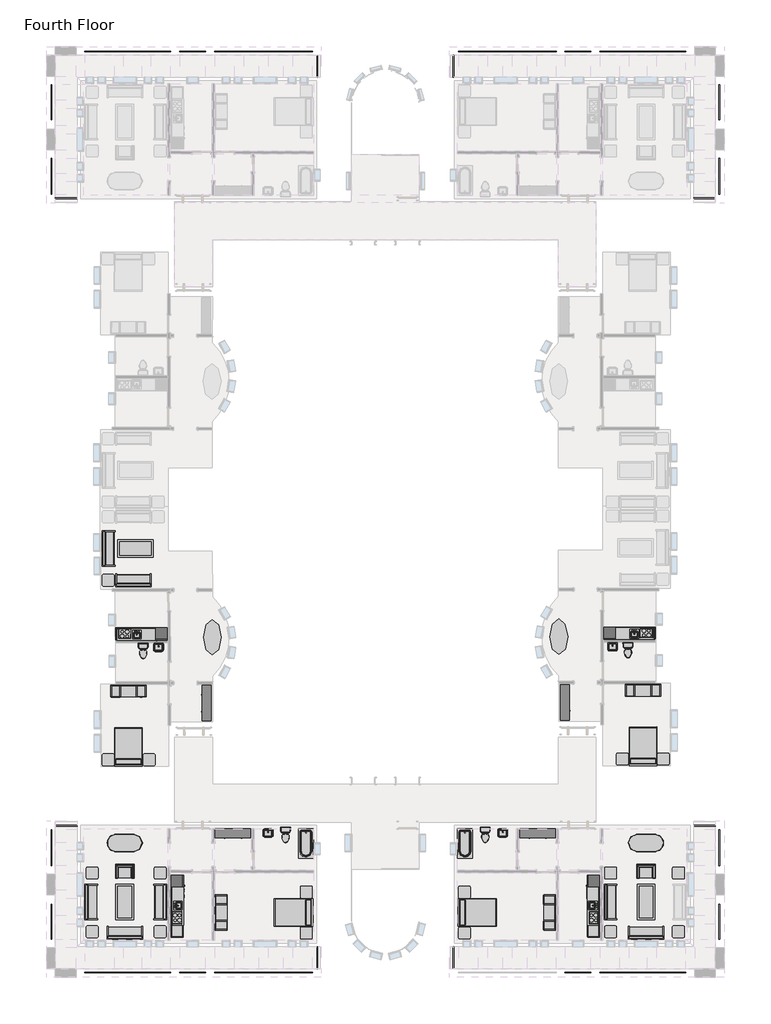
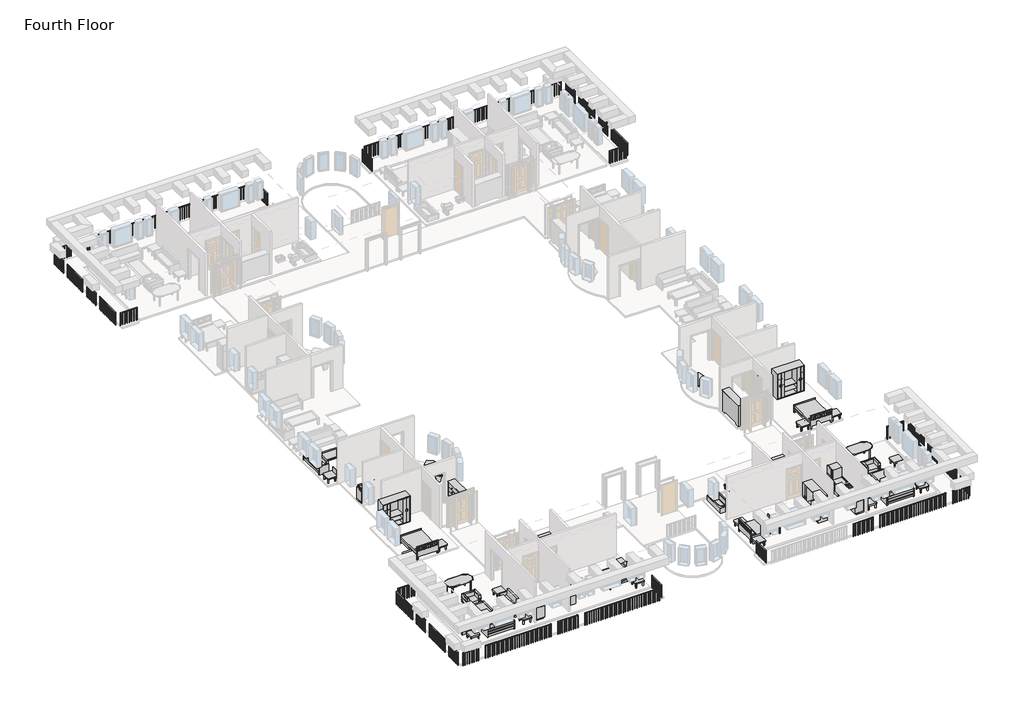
# One storey, part 5 of 6: 45 furniture elements, 39 railings, 10 flow terminals, 4 proxies.
"""IFC4 building model written with IfcOpenShell, lengths in millimetres."""

from ifc_helpers import new_model, si_unit, origin, place, context, project, spatial, transform, mapped, element, save
from components import kitchenette_medium_5_9f73a4de, kitchenette_medium_5_952fb32b, proxy_64a468c4, proxy_b7eaed23, flow_terminal_0aeb31e3, flow_terminal_b53e1081, toilet_domestic_3d_toilet_domestic_3d_f7549cf7, toilet_domestic_3d_toilet_domestic_3d_183bbd19, toilet_domestic_3d_toilet_domestic_3d_a08e12bc, toilet_domestic_3d_toilet_domestic_3d_5530cc89, tub_rectangular_3d_tub_rectangular_3d_5e45a89b, tub_rectangular_3d_tub_rectangular_3d_98eb9c7c, furniture_096e7f55, furniture_097b173b, chair_corbu_chair_corbu_2764bdef, chair_corbu_chair_corbu_95fad79a, furniture_7c473f12, furniture_f6e81328, furniture_ddc78764, furniture_328d9d47, furniture_4ef38d96, furniture_dde8a40a, furniture_cd93a443, furniture_c9413244, furniture_2c34a4f9, furniture_cc351095, furniture_43880056, furniture_a7425590, furniture_3a588284, furniture_1befe2a2, handrail_rectangular_d7a95ee9, handrail_rectangular_ca5e6d7e, handrail_rectangular_3865f20d, handrail_rectangular_1a7f8f58, handrail_rectangular_74a4d960, handrail_rectangular_5d3df7b5, handrail_rectangular_50dfef9f, handrail_rectangular_9811aab8, handrail_rectangular_aef8fcb5, handrail_rectangular_f78fcc5e, handrail_rectangular_53c340ba, handrail_rectangular_aff0f40c, handrail_rectangular_17584c85, handrail_rectangular_a0145d3a, handrail_rectangular_d45e78c5, handrail_rectangular_bbfcefb0, handrail_rectangular_81e9a33c, handrail_rectangular_a6a73193, handrail_rectangular_7020c1bb, handrail_rectangular_c69f9d7d, handrail_rectangular_71b7e832, handrail_rectangular_8f895436, handrail_rectangular_2615ea70, handrail_rectangular_b4f5aae1, handrail_rectangular_3a6b5298, handrail_rectangular_4bc45e69, handrail_rectangular_9493bfe2, handrail_rectangular_fe4f68d6, handrail_rectangular_f2b9568b, handrail_rectangular_ea3f4b23, handrail_rectangular_c97c75ae, handrail_rectangular_5462797e, handrail_rectangular_26da0932, handrail_rectangular_64a38bec, handrail_rectangular_8ddc5b96, handrail_rectangular_d55c21d1, handrail_rectangular_f025ebe9, handrail_rectangular_ecbd96a2, handrail_rectangular_f7f0d73b

model = new_model("IFC4")

# Units and contexts
model_context = context("Model", 3, world=origin())
ifc_project = project(units=[si_unit("LENGTHUNIT", "METRE", prefix="MILLI")], contexts=[model_context])

# Site, building, storey
site = spatial("IfcSite", under=ifc_project)
building = spatial("IfcBuilding", under=site)
storey = spatial("IfcBuildingStorey", under=building, Name="Fourth Floor", Elevation=9144.0)

# Proxies
placement = place(None, origin())
kitchenette_medium_5_shape = kitchenette_medium_5_9f73a4de(model_context)
element("IfcBuildingElementProxy", 1, Name="Kitchenette - Medium : 5'", ObjectType="Kitchenette - Medium : 5'", at=placement, inside=storey, context=model_context, shape_type="MappedRepresentation", body=[
    mapped(kitchenette_medium_5_shape, transform((-28107.606888, -17781.5711796, 9144.0), x_axis=(0.9999974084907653, 0.002276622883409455, 0.0), y_axis=(-0.002276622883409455, 0.9999974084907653, 0.0), z_axis=(0.0, 0.0, 1.0))),
])
kitchenette_medium_5_2_shape = kitchenette_medium_5_952fb32b(model_context)
element("IfcBuildingElementProxy", 2, Name="Kitchenette - Medium : 5'", ObjectType="Kitchenette - Medium : 5'", at=placement, inside=storey, context=model_context, shape_type="MappedRepresentation", body=[
    mapped(kitchenette_medium_5_2_shape, transform((-1744.2179937, -17741.558118, 9144.0), x_axis=(-0.999999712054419, -0.0007588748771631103, 0.0), y_axis=(0.0007588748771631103, -0.999999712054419, 0.0), z_axis=(0.0, 0.0, 1.0))),
])
proxy_shape = proxy_64a468c4(model_context)
element("IfcBuildingElementProxy", 3, Name="Kitchenette - Medium : 8'6\"", ObjectType="Kitchenette - Medium : 8'6\"", at=placement, inside=storey, context=model_context, shape_type="MappedRepresentation", body=[
    mapped(proxy_shape, transform((-25982.5839563, -32446.1322699, 9144.0), x_axis=(0.0, 1.0, 0.0), y_axis=(-1.0, 0.0, 0.0), z_axis=(0.0, 0.0, 1.0))),
])
proxy_2_shape = proxy_b7eaed23(model_context)
element("IfcBuildingElementProxy", 4, Name="Kitchenette - Medium : 8'6\"", ObjectType="Kitchenette - Medium : 8'6\"", at=placement, inside=storey, context=model_context, shape_type="MappedRepresentation", body=[
    mapped(proxy_2_shape, transform((-3887.7589563, -32446.1322699, 9144.0), x_axis=(0.0, 1.0, 0.0), y_axis=(-1.0, 0.0, 0.0), z_axis=(0.0, 0.0, 1.0))),
])

# Flow terminals
flow_terminal_shape = flow_terminal_0aeb31e3(model_context)
element("IfcFlowTerminal", 5, ObjectType="Sink Vanity-Square : 24\" x 19\"", at=placement, inside=storey, context=model_context, shape_type="MappedRepresentation", body=[
    mapped(flow_terminal_shape, transform((-21005.5856969, -28314.9262144, 9144.0), x_axis=(1.0, 0.0, 0.0), y_axis=(0.0, 1.0, 0.0), z_axis=(0.0, 0.0, 1.0))),
])
element("IfcFlowTerminal", 6, ObjectType="Sink Vanity-Square : 24\" x 19\"", at=placement, inside=storey, context=model_context, shape_type="MappedRepresentation", body=[
    mapped(flow_terminal_shape, transform((-26654.3976584, -18738.7087237, 9144.0), x_axis=(0.9999974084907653, 0.0022766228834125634, 0.0), y_axis=(-0.0022766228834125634, 0.9999974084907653, 0.0), z_axis=(0.0, 0.0, 1.0))),
])
flow_terminal_2_shape = flow_terminal_b53e1081(model_context)
element("IfcFlowTerminal", 7, ObjectType="Sink Vanity-Square : 24\" x 19\"", at=placement, inside=storey, context=model_context, shape_type="MappedRepresentation", body=[
    mapped(flow_terminal_2_shape, transform((-8864.7572157, -28314.9262144, 9144.0), x_axis=(-1.0, 0.0, 0.0), y_axis=(0.0, -1.0, 0.0), z_axis=(0.0, 0.0, 1.0))),
])
element("IfcFlowTerminal", 8, ObjectType="Sink Vanity-Square : 24\" x 19\"", at=placement, inside=storey, context=model_context, shape_type="MappedRepresentation", body=[
    mapped(flow_terminal_2_shape, transform((-3194.5151418, -18703.102462, 9144.0), x_axis=(-0.999999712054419, -0.0007588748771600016, 0.0), y_axis=(0.0007588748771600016, -0.999999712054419, 0.0), z_axis=(0.0, 0.0, 1.0))),
])
toilet_domestic_3d_toilet_domestic_3d_shape = toilet_domestic_3d_toilet_domestic_3d_f7549cf7(model_context)
toilet_domestic_3d_toilet_domestic_3d_2_shape = toilet_domestic_3d_toilet_domestic_3d_183bbd19(model_context)
element("IfcFlowTerminal", 9, ObjectType="Toilet-Domestic-3D : Toilet-Domestic-3D", at=placement, inside=storey, context=model_context, shape_type="MappedRepresentation", body=[
    mapped(toilet_domestic_3d_toilet_domestic_3d_shape, transform((-20088.1962539, -28549.2030376, 9144.0), x_axis=(1.0000000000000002, 0.0, 0.0), y_axis=(0.0, 1.0000000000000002, 0.0), z_axis=(0.0, 0.0, 1.0))),
    mapped(toilet_domestic_3d_toilet_domestic_3d_2_shape, transform((-20088.1962539, -28549.2030376, 9144.0), x_axis=(1.0000000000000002, 0.0, 0.0), y_axis=(0.0, 1.0000000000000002, 0.0), z_axis=(0.0, 0.0, 1.0))),
])
element("IfcFlowTerminal", 10, ObjectType="Toilet-Domestic-3D : Toilet-Domestic-3D", at=placement, inside=storey, context=model_context, shape_type="MappedRepresentation", body=[
    mapped(toilet_domestic_3d_toilet_domestic_3d_shape, transform((-27433.2527987, -19065.9985435, 9144.0), x_axis=(0.9999974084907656, 0.00227662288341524, 0.0), y_axis=(-0.00227662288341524, 0.9999974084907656, 0.0), z_axis=(0.0, 0.0, 1.0))),
    mapped(toilet_domestic_3d_toilet_domestic_3d_2_shape, transform((-27433.2527987, -19065.9985435, 9144.0), x_axis=(0.9999974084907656, 0.00227662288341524, 0.0), y_axis=(-0.00227662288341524, 0.9999974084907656, 0.0), z_axis=(0.0, 0.0, 1.0))),
])
toilet_domestic_3d_toilet_domestic_3d_3_shape = toilet_domestic_3d_toilet_domestic_3d_a08e12bc(model_context)
toilet_domestic_3d_toilet_domestic_3d_4_shape = toilet_domestic_3d_toilet_domestic_3d_5530cc89(model_context)
element("IfcFlowTerminal", 11, ObjectType="Toilet-Domestic-3D : Toilet-Domestic-3D", at=placement, inside=storey, context=model_context, shape_type="MappedRepresentation", body=[
    mapped(toilet_domestic_3d_toilet_domestic_3d_3_shape, transform((-9782.1466587, -28549.2030376, 9144.0), x_axis=(-1.0000000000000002, 0.0, 0.0), y_axis=(0.0, -1.0000000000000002, 0.0), z_axis=(0.0, 0.0, 1.0))),
    mapped(toilet_domestic_3d_toilet_domestic_3d_4_shape, transform((-9782.1466587, -28549.2030376, 9144.0), x_axis=(-1.0000000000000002, 0.0, 0.0), y_axis=(0.0, -1.0000000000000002, 0.0), z_axis=(0.0, 0.0, 1.0))),
])
element("IfcFlowTerminal", 12, ObjectType="Toilet-Domestic-3D : Toilet-Domestic-3D", at=placement, inside=storey, context=model_context, shape_type="MappedRepresentation", body=[
    mapped(toilet_domestic_3d_toilet_domestic_3d_3_shape, transform((-2414.6701032, -19028.026563, 9144.0), x_axis=(-0.9999997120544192, -0.0007588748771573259, 0.0), y_axis=(0.0007588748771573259, -0.9999997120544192, 0.0), z_axis=(0.0, 0.0, 1.0))),
    mapped(toilet_domestic_3d_toilet_domestic_3d_4_shape, transform((-2414.6701032, -19028.026563, 9144.0), x_axis=(-0.9999997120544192, -0.0007588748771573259, 0.0), y_axis=(0.0007588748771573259, -0.9999997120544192, 0.0), z_axis=(0.0, 0.0, 1.0))),
])
tub_rectangular_3d_tub_rectangular_3d_shape = tub_rectangular_3d_tub_rectangular_3d_5e45a89b(model_context)
element("IfcFlowTerminal", 13, ObjectType="Tub-Rectangular-3D : Tub-Rectangular-3D", at=placement, inside=storey, context=model_context, shape_type="MappedRepresentation", body=[
    mapped(tub_rectangular_3d_tub_rectangular_3d_shape, transform((-18476.8839563, -29245.383782, 9144.0), x_axis=(0.0, -1.0, 0.0), y_axis=(1.0, 0.0, 0.0), z_axis=(0.0, 0.0, 1.0))),
])
tub_rectangular_3d_tub_rectangular_3d_2_shape = tub_rectangular_3d_tub_rectangular_3d_98eb9c7c(model_context)
element("IfcFlowTerminal", 14, ObjectType="Tub-Rectangular-3D : Tub-Rectangular-3D", at=placement, inside=storey, context=model_context, shape_type="MappedRepresentation", body=[
    mapped(tub_rectangular_3d_tub_rectangular_3d_2_shape, transform((-11393.4589563, -29245.383782, 9144.0), x_axis=(0.0, -1.0, 0.0), y_axis=(1.0, 0.0, 0.0), z_axis=(0.0, 0.0, 1.0))),
])

# Furniture
furniture_shape = furniture_096e7f55(model_context)
element("IfcFurniture", 15, ObjectType="Bed-Shaker : Double 56\" x 78\"", at=placement, inside=storey, context=model_context, shape_type="MappedRepresentation", body=[
    mapped(furniture_shape, transform((-18687.1446324, -32480.2121827, 9144.0), x_axis=(0.0, -1.0, 0.0), y_axis=(1.0, 0.0, 0.0), z_axis=(0.0, 0.0, 1.0))),
])
element("IfcFurniture", 16, ObjectType="Bed-Shaker : Double 56\" x 78\"", at=placement, inside=storey, context=model_context, shape_type="MappedRepresentation", body=[
    mapped(furniture_shape, transform((-28204.4366356, -24912.5804513, 9144.0), x_axis=(-0.9999974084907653, -0.0022766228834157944, 0.0), y_axis=(0.0022766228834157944, -0.9999974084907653, 0.0), z_axis=(0.0, 0.0, 1.0))),
])
furniture_2_shape = furniture_097b173b(model_context)
element("IfcFurniture", 17, ObjectType="Bed-Shaker : Double 56\" x 78\"", at=placement, inside=storey, context=model_context, shape_type="MappedRepresentation", body=[
    mapped(furniture_2_shape, transform((-11183.1982802, -32480.2121827, 9144.0), x_axis=(0.0, -1.0, 0.0), y_axis=(1.0, 0.0, 0.0), z_axis=(0.0, 0.0, 1.0))),
])
element("IfcFurniture", 18, ObjectType="Bed-Shaker : Double 56\" x 78\"", at=placement, inside=storey, context=model_context, shape_type="MappedRepresentation", body=[
    mapped(furniture_2_shape, transform((-1625.7425483, -24872.2406101, 9144.0), x_axis=(0.999999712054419, 0.0007588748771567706, 0.0), y_axis=(-0.0007588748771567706, 0.999999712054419, 0.0), z_axis=(0.0, 0.0, 1.0))),
])
chair_corbu_chair_corbu_shape = chair_corbu_chair_corbu_2764bdef(model_context)
element("IfcFurniture", 19, ObjectType="Chair-Corbu : Chair-Corbu", at=placement, inside=storey, context=model_context, shape_type="MappedRepresentation", body=[
    mapped(chair_corbu_chair_corbu_shape, transform((-28956.2577268, -30801.8328625, 9144.0), x_axis=(1.0, 0.0, 0.0), y_axis=(0.0, 1.0, 0.0), z_axis=(0.0, 0.0, 1.0))),
])
chair_corbu_chair_corbu_2_shape = chair_corbu_chair_corbu_95fad79a(model_context)
element("IfcFurniture", 20, ObjectType="Chair-Corbu : Chair-Corbu", at=placement, inside=storey, context=model_context, shape_type="MappedRepresentation", body=[
    mapped(chair_corbu_chair_corbu_2_shape, transform((-914.0851858, -30801.8328625, 9144.0), x_axis=(-1.0, 0.0, 0.0), y_axis=(0.0, -1.0, 0.0), z_axis=(0.0, 0.0, 1.0))),
])
furniture_3_shape = furniture_7c473f12(model_context)
element("IfcFurniture", 21, ObjectType="Dresser : 72\" x 60\" x 18\"", at=placement, inside=storey, context=model_context, shape_type="MappedRepresentation", body=[
    mapped(furniture_3_shape, transform((-22525.6906965, -28012.9178592, 9144.0), x_axis=(1.0, 0.0, 0.0), y_axis=(0.0, 1.0, 0.0), z_axis=(0.0, 0.0, 1.0))),
])
element("IfcFurniture", 22, ObjectType="Dresser : 72\" x 60\" x 18\"", at=placement, inside=storey, context=model_context, shape_type="MappedRepresentation", body=[
    mapped(furniture_3_shape, transform((-23801.477263, -21929.2966114, 9144.0), x_axis=(0.00227662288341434, -0.9999974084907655, 0.0), y_axis=(0.9999974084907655, 0.00227662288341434, 0.0), z_axis=(0.0, 0.0, 1.0))),
])
furniture_4_shape = furniture_f6e81328(model_context)
element("IfcFurniture", 23, ObjectType="Dresser : 72\" x 60\" x 18\"", at=placement, inside=storey, context=model_context, shape_type="MappedRepresentation", body=[
    mapped(furniture_4_shape, transform((-7344.6522161, -28012.9178592, 9144.0), x_axis=(-1.0, 0.0, 0.0), y_axis=(0.0, -1.0, 0.0), z_axis=(0.0, 0.0, 1.0))),
])
element("IfcFurniture", 24, ObjectType="Dresser : 72\" x 60\" x 18\"", at=placement, inside=storey, context=model_context, shape_type="MappedRepresentation", body=[
    mapped(furniture_4_shape, transform((-6037.7373795, -21902.3356763, 9144.0), x_axis=(0.0007588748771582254, -0.9999997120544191, 0.0), y_axis=(0.9999997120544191, 0.0007588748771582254, 0.0), z_axis=(0.0, 0.0, 1.0))),
])
furniture_5_shape = furniture_ddc78764(model_context)
element("IfcFurniture", 25, ObjectType="Entertainment Center : 72\" x 72\" x 24\"", at=placement, inside=storey, context=model_context, shape_type="MappedRepresentation", body=[
    mapped(furniture_5_shape, transform((-23810.8839563, -32461.1621827, 9144.0), x_axis=(0.0, 1.0, 0.0), y_axis=(-1.0, 0.0, 0.0), z_axis=(0.0, 0.0, 1.0))),
])
element("IfcFurniture", 26, ObjectType="Entertainment Center : 72\" x 72\" x 24\"", at=placement, inside=storey, context=model_context, shape_type="MappedRepresentation", body=[
    mapped(furniture_5_shape, transform((-28195.1288723, -20633.3206223, 9144.0), x_axis=(0.9999974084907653, 0.0022766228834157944, 0.0), y_axis=(-0.0022766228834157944, 0.9999974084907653, 0.0), z_axis=(0.0, 0.0, 1.0))),
])
furniture_6_shape = furniture_328d9d47(model_context)
element("IfcFurniture", 27, ObjectType="Entertainment Center : 72\" x 72\" x 24\"", at=placement, inside=storey, context=model_context, shape_type="MappedRepresentation", body=[
    mapped(furniture_6_shape, transform((-6059.4589563, -32461.1621827, 9144.0), x_axis=(0.0, 1.0, 0.0), y_axis=(-1.0, 0.0, 0.0), z_axis=(0.0, 0.0, 1.0))),
])
element("IfcFurniture", 28, ObjectType="Entertainment Center : 72\" x 72\" x 24\"", at=placement, inside=storey, context=model_context, shape_type="MappedRepresentation", body=[
    mapped(furniture_6_shape, transform((-1648.0399411, -20593.0287498, 9144.0), x_axis=(-0.999999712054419, -0.0007588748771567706, 0.0), y_axis=(0.0007588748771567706, -0.999999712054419, 0.0), z_axis=(0.0, 0.0, 1.0))),
])
furniture_7_shape = furniture_4ef38d96(model_context)
element("IfcFurniture", 29, ObjectType="Sofa : 72\"", at=placement, inside=storey, context=model_context, shape_type="MappedRepresentation", body=[
    mapped(furniture_7_shape, transform((-28312.5134645, -33349.614215, 9144.0), x_axis=(-1.0, 0.0, 0.0), y_axis=(0.0, -1.0, 0.0), z_axis=(0.0, 0.0, 1.0))),
])
element("IfcFurniture", 30, ObjectType="Sofa : 72\"", at=placement, inside=storey, context=model_context, shape_type="MappedRepresentation", body=[
    mapped(furniture_7_shape, transform((-29963.929858, -31991.3388051, 9144.0), x_axis=(0.0, 1.0, 0.0), y_axis=(-1.0, 0.0, 0.0), z_axis=(0.0, 0.0, 1.0))),
])
element("IfcFurniture", 31, ObjectType="Sofa : 72\"", at=placement, inside=storey, context=model_context, shape_type="MappedRepresentation", body=[
    mapped(furniture_7_shape, transform((-26700.2380547, -31850.5978215, 9144.0), x_axis=(0.0, -1.0, 0.0), y_axis=(1.0, 0.0, 0.0), z_axis=(0.0, 0.0, 1.0))),
])
element("IfcFurniture", 32, ObjectType="Sofa : 72\"", at=placement, inside=storey, context=model_context, shape_type="MappedRepresentation", body=[
    mapped(furniture_7_shape, transform((-29066.303607, -13757.6119061, 9144.0), x_axis=(-0.0022766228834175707, 0.9999974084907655, 0.0), y_axis=(-0.9999974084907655, -0.0022766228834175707, 0.0), z_axis=(0.0, 0.0, 1.0))),
])
element("IfcFurniture", 33, ObjectType="Sofa : 72\"", at=placement, inside=storey, context=model_context, shape_type="MappedRepresentation", body=[
    mapped(furniture_7_shape, transform((-27872.3119152, -15172.6171557, 9144.0), x_axis=(-0.9999974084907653, -0.0022766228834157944, 0.0), y_axis=(0.0022766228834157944, -0.9999974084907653, 0.0), z_axis=(0.0, 0.0, 1.0))),
])
furniture_8_shape = furniture_dde8a40a(model_context)
element("IfcFurniture", 34, ObjectType="Sofa : 72\"", at=placement, inside=storey, context=model_context, shape_type="MappedRepresentation", body=[
    mapped(furniture_8_shape, transform((-1557.8294481, -33349.614215, 9144.0), x_axis=(1.0, 0.0, 0.0), y_axis=(0.0, 1.0, 0.0), z_axis=(0.0, 0.0, 1.0))),
])
element("IfcFurniture", 35, ObjectType="Sofa : 72\"", at=placement, inside=storey, context=model_context, shape_type="MappedRepresentation", body=[
    mapped(furniture_8_shape, transform((-3170.104858, -31850.5978215, 9144.0), x_axis=(0.0, -1.0, 0.0), y_axis=(1.0, 0.0, 0.0), z_axis=(0.0, 0.0, 1.0))),
])
furniture_9_shape = furniture_cd93a443(model_context)
element("IfcFurniture", 36, ObjectType="Table-Coffee : 36\" x 72\" x 18\"", at=placement, inside=storey, context=model_context, shape_type="MappedRepresentation", body=[
    mapped(furniture_9_shape, transform((-28287.6728785, -31939.23408, 9144.0), x_axis=(0.0, 1.0, 0.0), y_axis=(-1.0, 0.0, 0.0), z_axis=(0.0, 0.0, 1.0))),
])
element("IfcFurniture", 37, ObjectType="Table-Coffee : 36\" x 72\" x 18\"", at=placement, inside=storey, context=model_context, shape_type="MappedRepresentation", body=[
    mapped(furniture_9_shape, transform((-27859.0700478, -13779.7041338, 9144.0), x_axis=(0.9999974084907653, 0.0022766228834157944, 0.0), y_axis=(-0.0022766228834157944, 0.9999974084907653, 0.0), z_axis=(0.0, 0.0, 1.0))),
])
furniture_10_shape = furniture_c9413244(model_context)
element("IfcFurniture", 38, ObjectType="Table-Coffee : 36\" x 72\" x 18\"", at=placement, inside=storey, context=model_context, shape_type="MappedRepresentation", body=[
    mapped(furniture_10_shape, transform((-1582.6700341, -31939.23408, 9144.0), x_axis=(0.0, 1.0, 0.0), y_axis=(-1.0, 0.0, 0.0), z_axis=(0.0, 0.0, 1.0))),
])
furniture_11_shape = furniture_2c34a4f9(model_context)
element("IfcFurniture", 39, ObjectType="Table-Dining Oval : 36\" x 72\"", at=placement, inside=storey, context=model_context, shape_type="MappedRepresentation", body=[
    mapped(furniture_11_shape, transform((-28784.7036284, -29231.066674, 9144.0), x_axis=(-1.0, 0.0, 0.0), y_axis=(0.0, -1.0, 0.0), z_axis=(0.0, 0.0, 1.0))),
])
furniture_12_shape = furniture_cc351095(model_context)
element("IfcFurniture", 40, ObjectType="Table-Dining Oval : 36\" x 72\"", at=placement, inside=storey, context=model_context, shape_type="MappedRepresentation", body=[
    mapped(furniture_12_shape, transform((-1085.6392842, -29231.066674, 9144.0), x_axis=(1.0, 0.0, 0.0), y_axis=(0.0, 1.0, 0.0), z_axis=(0.0, 0.0, 1.0))),
])
furniture_13_shape = furniture_43880056(model_context)
element("IfcFurniture", 41, ObjectType="Table-Ellipse : 72\" x 36\"", at=placement, inside=storey, context=model_context, shape_type="MappedRepresentation", body=[
    mapped(furniture_13_shape, transform((-23868.1864956, -18263.2939384, 9144.0), x_axis=(-0.0022766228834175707, 0.9999974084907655, 0.0), y_axis=(-0.9999974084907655, -0.0022766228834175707, 0.0), z_axis=(0.0, 0.0, 1.0))),
])
furniture_14_shape = furniture_a7425590(model_context)
element("IfcFurniture", 42, ObjectType="Table-Ellipse : 72\" x 36\"", at=placement, inside=storey, context=model_context, shape_type="MappedRepresentation", body=[
    mapped(furniture_14_shape, transform((-5982.1565875, -18236.1473975, 9144.0), x_axis=(-0.0007588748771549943, 0.9999997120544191, 0.0), y_axis=(-0.9999997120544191, -0.0007588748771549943, 0.0), z_axis=(0.0, 0.0, 1.0))),
])
furniture_15_shape = furniture_3a588284(model_context)
element("IfcFurniture", 43, ObjectType="Table-End : 24\" x 24\"", at=placement, inside=storey, context=model_context, shape_type="MappedRepresentation", body=[
    mapped(furniture_15_shape, transform((-11164.2346356, -31557.9140031, 9144.0), x_axis=(1.0, 0.0, 0.0), y_axis=(0.0, 1.0, 0.0), z_axis=(0.0, 0.0, 1.0))),
])
element("IfcFurniture", 44, ObjectType="Table-End : 24\" x 24\"", at=placement, inside=storey, context=model_context, shape_type="MappedRepresentation", body=[
    mapped(furniture_15_shape, transform((-29750.750326, -33292.5683133, 9144.0), x_axis=(-1.0, 0.0, 0.0), y_axis=(0.0, -1.0, 0.0), z_axis=(0.0, 0.0, 1.0))),
])
element("IfcFurniture", 45, ObjectType="Table-End : 24\" x 24\"", at=placement, inside=storey, context=model_context, shape_type="MappedRepresentation", body=[
    mapped(furniture_15_shape, transform((-26245.550326, -33292.5683133, 9144.0), x_axis=(-1.0, 0.0, 0.0), y_axis=(0.0, -1.0, 0.0), z_axis=(0.0, 0.0, 1.0))),
])
element("IfcFurniture", 46, ObjectType="Table-End : 24\" x 24\"", at=placement, inside=storey, context=model_context, shape_type="MappedRepresentation", body=[
    mapped(furniture_15_shape, transform((-26245.550326, -30268.3808133, 9144.0), x_axis=(-1.0, 0.0, 0.0), y_axis=(0.0, -1.0, 0.0), z_axis=(0.0, 0.0, 1.0))),
])
element("IfcFurniture", 47, ObjectType="Table-End : 24\" x 24\"", at=placement, inside=storey, context=model_context, shape_type="MappedRepresentation", body=[
    mapped(furniture_15_shape, transform((-29750.750326, -30268.3808133, 9144.0), x_axis=(-1.0, 0.0, 0.0), y_axis=(0.0, -1.0, 0.0), z_axis=(0.0, 0.0, 1.0))),
])
element("IfcFurniture", 48, ObjectType="Table-End : 24\" x 24\"", at=placement, inside=storey, context=model_context, shape_type="MappedRepresentation", body=[
    mapped(furniture_15_shape, transform((-18706.1082771, -33364.4103623, 9144.0), x_axis=(-1.0, 0.0, 0.0), y_axis=(0.0, -1.0, 0.0), z_axis=(0.0, 0.0, 1.0))),
])
element("IfcFurniture", 49, ObjectType="Table-End : 24\" x 24\"", at=placement, inside=storey, context=model_context, shape_type="MappedRepresentation", body=[
    mapped(furniture_15_shape, transform((-2548.0548534, -24853.9768798, 9144.0), x_axis=(-0.0007588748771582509, 0.9999997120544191, 0.0), y_axis=(-0.9999997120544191, -0.0007588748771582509, 0.0), z_axis=(0.0, 0.0, 1.0))),
])
element("IfcFurniture", 50, ObjectType="Table-End : 24\" x 24\"", at=placement, inside=storey, context=model_context, shape_type="MappedRepresentation", body=[
    mapped(furniture_15_shape, transform((-29084.64411, -15630.066093, 9144.0), x_axis=(-0.0022766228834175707, 0.9999974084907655, 0.0), y_axis=(-0.9999974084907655, -0.0022766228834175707, 0.0), z_axis=(0.0, 0.0, 1.0))),
])
element("IfcFurniture", 51, ObjectType="Table-End : 24\" x 24\"", at=placement, inside=storey, context=model_context, shape_type="MappedRepresentation", body=[
    mapped(furniture_15_shape, transform((-29088.6756968, -24895.6298416, 9144.0), x_axis=(-0.0022766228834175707, 0.9999974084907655, 0.0), y_axis=(-0.9999974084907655, -0.0022766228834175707, 0.0), z_axis=(0.0, 0.0, 1.0))),
])
furniture_16_shape = furniture_1befe2a2(model_context)
element("IfcFurniture", 52, ObjectType="Table-End : 24\" x 24\"", at=placement, inside=storey, context=model_context, shape_type="MappedRepresentation", body=[
    mapped(furniture_16_shape, transform((-119.5925866, -33292.5683133, 9144.0), x_axis=(1.0, 0.0, 0.0), y_axis=(0.0, 1.0, 0.0), z_axis=(0.0, 0.0, 1.0))),
])
element("IfcFurniture", 53, ObjectType="Table-End : 24\" x 24\"", at=placement, inside=storey, context=model_context, shape_type="MappedRepresentation", body=[
    mapped(furniture_16_shape, transform((-3624.7925866, -33292.5683133, 9144.0), x_axis=(1.0, 0.0, 0.0), y_axis=(0.0, 1.0, 0.0), z_axis=(0.0, 0.0, 1.0))),
])
element("IfcFurniture", 54, ObjectType="Table-End : 24\" x 24\"", at=placement, inside=storey, context=model_context, shape_type="MappedRepresentation", body=[
    mapped(furniture_16_shape, transform((-3624.7925866, -30268.3808133, 9144.0), x_axis=(1.0, 0.0, 0.0), y_axis=(0.0, 1.0, 0.0), z_axis=(0.0, 0.0, 1.0))),
])
element("IfcFurniture", 55, ObjectType="Table-End : 24\" x 24\"", at=placement, inside=storey, context=model_context, shape_type="MappedRepresentation", body=[
    mapped(furniture_16_shape, transform((-119.5925866, -30268.3808133, 9144.0), x_axis=(1.0, 0.0, 0.0), y_axis=(0.0, 1.0, 0.0), z_axis=(0.0, 0.0, 1.0))),
])
element("IfcFurniture", 56, ObjectType="Table-End : 24\" x 24\"", at=placement, inside=storey, context=model_context, shape_type="MappedRepresentation", body=[
    mapped(furniture_16_shape, transform((-11164.2346356, -33364.4103623, 9144.0), x_axis=(1.0, 0.0, 0.0), y_axis=(0.0, 1.0, 0.0), z_axis=(0.0, 0.0, 1.0))),
])
element("IfcFurniture", 57, ObjectType="Table-End : 24\" x 24\"", at=placement, inside=storey, context=model_context, shape_type="MappedRepresentation", body=[
    mapped(furniture_16_shape, transform((-18706.1082771, -31557.9140031, 9144.0), x_axis=(-1.0, 0.0, 0.0), y_axis=(0.0, -1.0, 0.0), z_axis=(0.0, 0.0, 1.0))),
])
element("IfcFurniture", 58, ObjectType="Table-End : 24\" x 24\"", at=placement, inside=storey, context=model_context, shape_type="MappedRepresentation", body=[
    mapped(furniture_16_shape, transform((-741.5590143, -24852.6059751, 9144.0), x_axis=(-0.0007588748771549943, 0.9999997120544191, 0.0), y_axis=(-0.9999997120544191, -0.0007588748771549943, 0.0), z_axis=(0.0, 0.0, 1.0))),
])
element("IfcFurniture", 59, ObjectType="Table-End : 24\" x 24\"", at=placement, inside=storey, context=model_context, shape_type="MappedRepresentation", body=[
    mapped(furniture_16_shape, transform((-27282.1840192, -24891.5171307, 9144.0), x_axis=(-0.002276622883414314, 0.9999974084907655, 0.0), y_axis=(-0.9999974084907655, -0.002276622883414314, 0.0), z_axis=(0.0, 0.0, 1.0))),
])

# Railings
handrail_rectangular_shape = handrail_rectangular_d7a95ee9(model_context)
element("IfcRailing", 60, ObjectType="Handrail - Rectangular", at=placement, inside=storey, context=model_context, shape_type="MappedRepresentation", body=[
    mapped(handrail_rectangular_shape, transform((0.0, 0.0, 0.0), x_axis=(1.0, 0.0, 0.0), y_axis=(0.0, 1.0, 0.0), z_axis=(0.0, 0.0, 1.0))),
])
handrail_rectangular_2_shape = handrail_rectangular_ca5e6d7e(model_context)
element("IfcRailing", 61, ObjectType="Handrail - Rectangular", at=placement, inside=storey, context=model_context, shape_type="MappedRepresentation", body=[
    mapped(handrail_rectangular_2_shape, transform((0.0, 0.0, 0.0), x_axis=(1.0, 0.0, 0.0), y_axis=(0.0, 1.0, 0.0), z_axis=(0.0, 0.0, 1.0))),
])
handrail_rectangular_3_shape = handrail_rectangular_3865f20d(model_context)
element("IfcRailing", 62, ObjectType="Handrail - Rectangular", at=placement, inside=storey, context=model_context, shape_type="MappedRepresentation", body=[
    mapped(handrail_rectangular_3_shape, transform((0.0, 0.0, 0.0), x_axis=(1.0, 0.0, 0.0), y_axis=(0.0, 1.0, 0.0), z_axis=(0.0, 0.0, 1.0))),
])
handrail_rectangular_4_shape = handrail_rectangular_1a7f8f58(model_context)
element("IfcRailing", 63, ObjectType="Handrail - Rectangular", at=placement, inside=storey, context=model_context, shape_type="MappedRepresentation", body=[
    mapped(handrail_rectangular_4_shape, transform((0.0, 0.0, 0.0), x_axis=(1.0, 0.0, 0.0), y_axis=(0.0, 1.0, 0.0), z_axis=(0.0, 0.0, 1.0))),
])
handrail_rectangular_5_shape = handrail_rectangular_74a4d960(model_context)
element("IfcRailing", 64, ObjectType="Handrail - Rectangular", at=placement, inside=storey, context=model_context, shape_type="MappedRepresentation", body=[
    mapped(handrail_rectangular_5_shape, transform((0.0, 0.0, 0.0), x_axis=(1.0, 0.0, 0.0), y_axis=(0.0, 1.0, 0.0), z_axis=(0.0, 0.0, 1.0))),
])
handrail_rectangular_6_shape = handrail_rectangular_5d3df7b5(model_context)
element("IfcRailing", 65, ObjectType="Handrail - Rectangular", at=placement, inside=storey, context=model_context, shape_type="MappedRepresentation", body=[
    mapped(handrail_rectangular_6_shape, transform((0.0, 0.0, 0.0), x_axis=(1.0, 0.0, 0.0), y_axis=(0.0, 1.0, 0.0), z_axis=(0.0, 0.0, 1.0))),
])
handrail_rectangular_7_shape = handrail_rectangular_50dfef9f(model_context)
element("IfcRailing", 66, ObjectType="Handrail - Rectangular", at=placement, inside=storey, context=model_context, shape_type="MappedRepresentation", body=[
    mapped(handrail_rectangular_7_shape, transform((0.0, 0.0, 0.0), x_axis=(1.0, 0.0, 0.0), y_axis=(0.0, 1.0, 0.0), z_axis=(0.0, 0.0, 1.0))),
])
handrail_rectangular_8_shape = handrail_rectangular_9811aab8(model_context)
element("IfcRailing", 67, ObjectType="Handrail - Rectangular", at=placement, inside=storey, context=model_context, shape_type="MappedRepresentation", body=[
    mapped(handrail_rectangular_8_shape, transform((0.0, 0.0, 0.0), x_axis=(1.0, 0.0, 0.0), y_axis=(0.0, 1.0, 0.0), z_axis=(0.0, 0.0, 1.0))),
])
handrail_rectangular_9_shape = handrail_rectangular_aef8fcb5(model_context)
element("IfcRailing", 68, ObjectType="Handrail - Rectangular", at=placement, inside=storey, context=model_context, shape_type="MappedRepresentation", body=[
    mapped(handrail_rectangular_9_shape, transform((0.0, 0.0, 0.0), x_axis=(1.0, 0.0, 0.0), y_axis=(0.0, 1.0, 0.0), z_axis=(0.0, 0.0, 1.0))),
])
handrail_rectangular_10_shape = handrail_rectangular_f78fcc5e(model_context)
element("IfcRailing", 69, ObjectType="Handrail - Rectangular", at=placement, inside=storey, context=model_context, shape_type="MappedRepresentation", body=[
    mapped(handrail_rectangular_10_shape, transform((0.0, 0.0, 0.0), x_axis=(1.0, 0.0, 0.0), y_axis=(0.0, 1.0, 0.0), z_axis=(0.0, 0.0, 1.0))),
])
handrail_rectangular_11_shape = handrail_rectangular_53c340ba(model_context)
element("IfcRailing", 70, ObjectType="Handrail - Rectangular", at=placement, inside=storey, context=model_context, shape_type="MappedRepresentation", body=[
    mapped(handrail_rectangular_11_shape, transform((0.0, 0.0, 0.0), x_axis=(1.0, 0.0, 0.0), y_axis=(0.0, 1.0, 0.0), z_axis=(0.0, 0.0, 1.0))),
])
handrail_rectangular_12_shape = handrail_rectangular_aff0f40c(model_context)
element("IfcRailing", 71, ObjectType="Handrail - Rectangular", at=placement, inside=storey, context=model_context, shape_type="MappedRepresentation", body=[
    mapped(handrail_rectangular_12_shape, transform((0.0, 0.0, 0.0), x_axis=(1.0, 0.0, 0.0), y_axis=(0.0, 1.0, 0.0), z_axis=(0.0, 0.0, 1.0))),
])
handrail_rectangular_13_shape = handrail_rectangular_17584c85(model_context)
element("IfcRailing", 72, ObjectType="Handrail - Rectangular", at=placement, inside=storey, context=model_context, shape_type="MappedRepresentation", body=[
    mapped(handrail_rectangular_13_shape, transform((0.0, 0.0, 0.0), x_axis=(1.0, 0.0, 0.0), y_axis=(0.0, 1.0, 0.0), z_axis=(0.0, 0.0, 1.0))),
])
handrail_rectangular_14_shape = handrail_rectangular_a0145d3a(model_context)
element("IfcRailing", 73, ObjectType="Handrail - Rectangular", at=placement, inside=storey, context=model_context, shape_type="MappedRepresentation", body=[
    mapped(handrail_rectangular_14_shape, transform((0.0, 0.0, 0.0), x_axis=(1.0, 0.0, 0.0), y_axis=(0.0, 1.0, 0.0), z_axis=(0.0, 0.0, 1.0))),
])
handrail_rectangular_15_shape = handrail_rectangular_d45e78c5(model_context)
element("IfcRailing", 74, ObjectType="Handrail - Rectangular", at=placement, inside=storey, context=model_context, shape_type="MappedRepresentation", body=[
    mapped(handrail_rectangular_15_shape, transform((0.0, 0.0, 0.0), x_axis=(1.0, 0.0, 0.0), y_axis=(0.0, 1.0, 0.0), z_axis=(0.0, 0.0, 1.0))),
])
handrail_rectangular_16_shape = handrail_rectangular_bbfcefb0(model_context)
element("IfcRailing", 75, ObjectType="Handrail - Rectangular", at=placement, inside=storey, context=model_context, shape_type="MappedRepresentation", body=[
    mapped(handrail_rectangular_16_shape, transform((0.0, 0.0, 0.0), x_axis=(1.0, 0.0, 0.0), y_axis=(0.0, 1.0, 0.0), z_axis=(0.0, 0.0, 1.0))),
])
handrail_rectangular_17_shape = handrail_rectangular_81e9a33c(model_context)
element("IfcRailing", 76, ObjectType="Handrail - Rectangular", at=placement, inside=storey, context=model_context, shape_type="MappedRepresentation", body=[
    mapped(handrail_rectangular_17_shape, transform((0.0, 0.0, 0.0), x_axis=(1.0, 0.0, 0.0), y_axis=(0.0, 1.0, 0.0), z_axis=(0.0, 0.0, 1.0))),
])
handrail_rectangular_18_shape = handrail_rectangular_a6a73193(model_context)
element("IfcRailing", 77, ObjectType="Handrail - Rectangular", at=placement, inside=storey, context=model_context, shape_type="MappedRepresentation", body=[
    mapped(handrail_rectangular_18_shape, transform((0.0, 0.0, 0.0), x_axis=(1.0, 0.0, 0.0), y_axis=(0.0, 1.0, 0.0), z_axis=(0.0, 0.0, 1.0))),
])
handrail_rectangular_19_shape = handrail_rectangular_7020c1bb(model_context)
element("IfcRailing", 78, ObjectType="Handrail - Rectangular", at=placement, inside=storey, context=model_context, shape_type="MappedRepresentation", body=[
    mapped(handrail_rectangular_19_shape, transform((0.0, 0.0, 0.0), x_axis=(1.0, 0.0, 0.0), y_axis=(0.0, 1.0, 0.0), z_axis=(0.0, 0.0, 1.0))),
])
handrail_rectangular_20_shape = handrail_rectangular_c69f9d7d(model_context)
element("IfcRailing", 79, ObjectType="Handrail - Rectangular", at=placement, inside=storey, context=model_context, shape_type="MappedRepresentation", body=[
    mapped(handrail_rectangular_20_shape, transform((0.0, 0.0, 0.0), x_axis=(1.0, 0.0, 0.0), y_axis=(0.0, 1.0, 0.0), z_axis=(0.0, 0.0, 1.0))),
])
handrail_rectangular_21_shape = handrail_rectangular_71b7e832(model_context)
element("IfcRailing", 80, ObjectType="Handrail - Rectangular", at=placement, inside=storey, context=model_context, shape_type="MappedRepresentation", body=[
    mapped(handrail_rectangular_21_shape, transform((0.0, 0.0, 0.0), x_axis=(1.0, 0.0, 0.0), y_axis=(0.0, 1.0, 0.0), z_axis=(0.0, 0.0, 1.0))),
])
handrail_rectangular_22_shape = handrail_rectangular_8f895436(model_context)
element("IfcRailing", 81, ObjectType="Handrail - Rectangular", at=placement, inside=storey, context=model_context, shape_type="MappedRepresentation", body=[
    mapped(handrail_rectangular_22_shape, transform((0.0, 0.0, 0.0), x_axis=(1.0, 0.0, 0.0), y_axis=(0.0, 1.0, 0.0), z_axis=(0.0, 0.0, 1.0))),
])
handrail_rectangular_23_shape = handrail_rectangular_2615ea70(model_context)
element("IfcRailing", 82, ObjectType="Handrail - Rectangular", at=placement, inside=storey, context=model_context, shape_type="MappedRepresentation", body=[
    mapped(handrail_rectangular_23_shape, transform((0.0, 0.0, 0.0), x_axis=(1.0, 0.0, 0.0), y_axis=(0.0, 1.0, 0.0), z_axis=(0.0, 0.0, 1.0))),
])
handrail_rectangular_24_shape = handrail_rectangular_b4f5aae1(model_context)
element("IfcRailing", 83, ObjectType="Handrail - Rectangular", at=placement, inside=storey, context=model_context, shape_type="MappedRepresentation", body=[
    mapped(handrail_rectangular_24_shape, transform((0.0, 0.0, 0.0), x_axis=(1.0, 0.0, 0.0), y_axis=(0.0, 1.0, 0.0), z_axis=(0.0, 0.0, 1.0))),
])
handrail_rectangular_25_shape = handrail_rectangular_3a6b5298(model_context)
element("IfcRailing", 84, ObjectType="Handrail - Rectangular", at=placement, inside=storey, context=model_context, shape_type="MappedRepresentation", body=[
    mapped(handrail_rectangular_25_shape, transform((0.0, 0.0, 0.0), x_axis=(1.0, 0.0, 0.0), y_axis=(0.0, 1.0, 0.0), z_axis=(0.0, 0.0, 1.0))),
])
handrail_rectangular_26_shape = handrail_rectangular_4bc45e69(model_context)
element("IfcRailing", 85, ObjectType="Handrail - Rectangular", at=placement, inside=storey, context=model_context, shape_type="MappedRepresentation", body=[
    mapped(handrail_rectangular_26_shape, transform((0.0, 0.0, 0.0), x_axis=(1.0, 0.0, 0.0), y_axis=(0.0, 1.0, 0.0), z_axis=(0.0, 0.0, 1.0))),
])
handrail_rectangular_27_shape = handrail_rectangular_9493bfe2(model_context)
element("IfcRailing", 86, ObjectType="Handrail - Rectangular", at=placement, inside=storey, context=model_context, shape_type="MappedRepresentation", body=[
    mapped(handrail_rectangular_27_shape, transform((0.0, 0.0, 0.0), x_axis=(1.0, 0.0, 0.0), y_axis=(0.0, 1.0, 0.0), z_axis=(0.0, 0.0, 1.0))),
])
handrail_rectangular_28_shape = handrail_rectangular_fe4f68d6(model_context)
element("IfcRailing", 87, ObjectType="Handrail - Rectangular", at=placement, inside=storey, context=model_context, shape_type="MappedRepresentation", body=[
    mapped(handrail_rectangular_28_shape, transform((0.0, 0.0, 0.0), x_axis=(1.0, 0.0, 0.0), y_axis=(0.0, 1.0, 0.0), z_axis=(0.0, 0.0, 1.0))),
])
handrail_rectangular_29_shape = handrail_rectangular_f2b9568b(model_context)
element("IfcRailing", 88, ObjectType="Handrail - Rectangular", at=placement, inside=storey, context=model_context, shape_type="MappedRepresentation", body=[
    mapped(handrail_rectangular_29_shape, transform((0.0, 0.0, 0.0), x_axis=(1.0, 0.0, 0.0), y_axis=(0.0, 1.0, 0.0), z_axis=(0.0, 0.0, 1.0))),
])
handrail_rectangular_30_shape = handrail_rectangular_ea3f4b23(model_context)
element("IfcRailing", 89, ObjectType="Handrail - Rectangular", at=placement, inside=storey, context=model_context, shape_type="MappedRepresentation", body=[
    mapped(handrail_rectangular_30_shape, transform((0.0, 0.0, 0.0), x_axis=(1.0, 0.0, 0.0), y_axis=(0.0, 1.0, 0.0), z_axis=(0.0, 0.0, 1.0))),
])
handrail_rectangular_31_shape = handrail_rectangular_c97c75ae(model_context)
element("IfcRailing", 90, ObjectType="Handrail - Rectangular", at=placement, inside=storey, context=model_context, shape_type="MappedRepresentation", body=[
    mapped(handrail_rectangular_31_shape, transform((0.0, 0.0, 0.0), x_axis=(1.0, 0.0, 0.0), y_axis=(0.0, 1.0, 0.0), z_axis=(0.0, 0.0, 1.0))),
])
handrail_rectangular_32_shape = handrail_rectangular_5462797e(model_context)
element("IfcRailing", 91, ObjectType="Handrail - Rectangular", at=placement, inside=storey, context=model_context, shape_type="MappedRepresentation", body=[
    mapped(handrail_rectangular_32_shape, transform((0.0, 0.0, 0.0), x_axis=(1.0, 0.0, 0.0), y_axis=(0.0, 1.0, 0.0), z_axis=(0.0, 0.0, 1.0))),
])
handrail_rectangular_33_shape = handrail_rectangular_26da0932(model_context)
element("IfcRailing", 92, ObjectType="Handrail - Rectangular", at=placement, inside=storey, context=model_context, shape_type="MappedRepresentation", body=[
    mapped(handrail_rectangular_33_shape, transform((0.0, 0.0, 0.0), x_axis=(1.0, 0.0, 0.0), y_axis=(0.0, 1.0, 0.0), z_axis=(0.0, 0.0, 1.0))),
])
handrail_rectangular_34_shape = handrail_rectangular_64a38bec(model_context)
element("IfcRailing", 93, ObjectType="Handrail - Rectangular", at=placement, inside=storey, context=model_context, shape_type="MappedRepresentation", body=[
    mapped(handrail_rectangular_34_shape, transform((0.0, 0.0, 0.0), x_axis=(1.0, 0.0, 0.0), y_axis=(0.0, 1.0, 0.0), z_axis=(0.0, 0.0, 1.0))),
])
handrail_rectangular_35_shape = handrail_rectangular_8ddc5b96(model_context)
element("IfcRailing", 94, ObjectType="Handrail - Rectangular", at=placement, inside=storey, context=model_context, shape_type="MappedRepresentation", body=[
    mapped(handrail_rectangular_35_shape, transform((0.0, 0.0, 0.0), x_axis=(1.0, 0.0, 0.0), y_axis=(0.0, 1.0, 0.0), z_axis=(0.0, 0.0, 1.0))),
])
handrail_rectangular_36_shape = handrail_rectangular_d55c21d1(model_context)
element("IfcRailing", 95, ObjectType="Handrail - Rectangular", at=placement, inside=storey, context=model_context, shape_type="MappedRepresentation", body=[
    mapped(handrail_rectangular_36_shape, transform((0.0, 0.0, 0.0), x_axis=(1.0, 0.0, 0.0), y_axis=(0.0, 1.0, 0.0), z_axis=(0.0, 0.0, 1.0))),
])
handrail_rectangular_37_shape = handrail_rectangular_f025ebe9(model_context)
element("IfcRailing", 96, ObjectType="Handrail - Rectangular", at=placement, inside=storey, context=model_context, shape_type="MappedRepresentation", body=[
    mapped(handrail_rectangular_37_shape, transform((0.0, 0.0, 0.0), x_axis=(1.0, 0.0, 0.0), y_axis=(0.0, 1.0, 0.0), z_axis=(0.0, 0.0, 1.0))),
])
handrail_rectangular_38_shape = handrail_rectangular_ecbd96a2(model_context)
element("IfcRailing", 97, ObjectType="Handrail - Rectangular", at=placement, inside=storey, context=model_context, shape_type="MappedRepresentation", body=[
    mapped(handrail_rectangular_38_shape, transform((0.0, 0.0, 0.0), x_axis=(1.0, 0.0, 0.0), y_axis=(0.0, 1.0, 0.0), z_axis=(0.0, 0.0, 1.0))),
])
handrail_rectangular_39_shape = handrail_rectangular_f7f0d73b(model_context)
element("IfcRailing", 98, ObjectType="Handrail - Rectangular", at=placement, inside=storey, context=model_context, shape_type="MappedRepresentation", body=[
    mapped(handrail_rectangular_39_shape, transform((0.0, 0.0, 0.0), x_axis=(1.0, 0.0, 0.0), y_axis=(0.0, 1.0, 0.0), z_axis=(0.0, 0.0, 1.0))),
])

save(model, "model.ifc")
